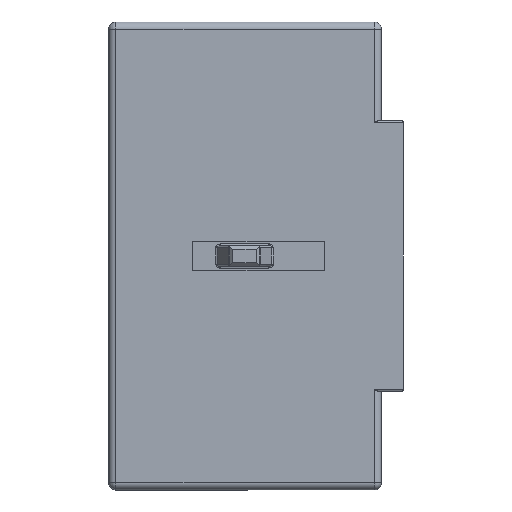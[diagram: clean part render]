
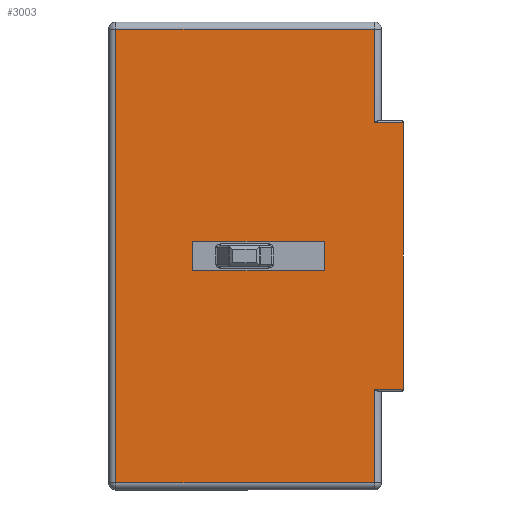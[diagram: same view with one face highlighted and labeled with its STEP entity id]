
A CAD part, left-side view. The second image highlights one B-rep face of the part: STEP entity #3003.
In plain terms, the highlighted planar face has unit normal (-1, 0, 0).
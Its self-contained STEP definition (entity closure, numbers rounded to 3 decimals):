
#56 = VECTOR ( 'NONE', #1629, 1000. ) ;
#64 = VERTEX_POINT ( 'NONE', #909 ) ;
#147 = VECTOR ( 'NONE', #772, 1000. ) ;
#210 = ORIENTED_EDGE ( 'NONE', *, *, #3262, .F. ) ;
#212 = VERTEX_POINT ( 'NONE', #787 ) ;
#217 = VERTEX_POINT ( 'NONE', #3150 ) ;
#229 = DIRECTION ( 'NONE',  ( 0., 0., -1. ) ) ;
#237 = ORIENTED_EDGE ( 'NONE', *, *, #567, .T. ) ;
#342 = DIRECTION ( 'NONE',  ( 0., 0., 1. ) ) ;
#397 = ORIENTED_EDGE ( 'NONE', *, *, #1645, .F. ) ;
#418 = CARTESIAN_POINT ( 'NONE',  ( -7.25, 10.8, 2. ) ) ;
#472 = CARTESIAN_POINT ( 'NONE',  ( -7.25, 10.8, -2. ) ) ;
#566 = CARTESIAN_POINT ( 'NONE',  ( -7.25, 39.3, -32. ) ) ;
#567 = EDGE_CURVE ( 'NONE', #3945, #2266, #2293, .T. ) ;
#617 = CARTESIAN_POINT ( 'NONE',  ( -7.25, 39.3, -31. ) ) ;
#633 = LINE ( 'NONE', #1665, #4126 ) ;
#645 = CARTESIAN_POINT ( 'NONE',  ( -7.25, 28.8, -2. ) ) ;
#665 = CARTESIAN_POINT ( 'NONE',  ( -7.25, 0., -18.25 ) ) ;
#702 = DIRECTION ( 'NONE',  ( 0., 0., 1. ) ) ;
#762 = CARTESIAN_POINT ( 'NONE',  ( -7.25, 10.8, 2. ) ) ;
#772 = DIRECTION ( 'NONE',  ( 0., -1., 0. ) ) ;
#774 = ORIENTED_EDGE ( 'NONE', *, *, #2229, .T. ) ;
#787 = CARTESIAN_POINT ( 'NONE',  ( -7.25, 4., 31. ) ) ;
#869 = CARTESIAN_POINT ( 'NONE',  ( -7.25, 0., 0. ) ) ;
#873 = EDGE_CURVE ( 'NONE', #2851, #3379, #1066, .T. ) ;
#908 = CARTESIAN_POINT ( 'NONE',  ( -7.25, 0., 18.5 ) ) ;
#909 = CARTESIAN_POINT ( 'NONE',  ( -7.25, 39.3, 31. ) ) ;
#922 = CARTESIAN_POINT ( 'NONE',  ( -7.25, 4., 18.25 ) ) ;
#985 = VECTOR ( 'NONE', #3997, 1000. ) ;
#1029 = DIRECTION ( 'NONE',  ( 0., -1., 0. ) ) ;
#1066 = LINE ( 'NONE', #1454, #147 ) ;
#1072 = CARTESIAN_POINT ( 'NONE',  ( -7.25, 10.8, -2. ) ) ;
#1083 = CARTESIAN_POINT ( 'NONE',  ( -7.25, 4., -18.25 ) ) ;
#1085 = LINE ( 'NONE', #1072, #3657 ) ;
#1124 = VECTOR ( 'NONE', #1029, 1000. ) ;
#1168 = ORIENTED_EDGE ( 'NONE', *, *, #2790, .T. ) ;
#1223 = VERTEX_POINT ( 'NONE', #3943 ) ;
#1259 = DIRECTION ( 'NONE',  ( 0., 0., -1. ) ) ;
#1279 = VECTOR ( 'NONE', #2600, 1000. ) ;
#1357 = DIRECTION ( 'NONE',  ( 0., -1., 0. ) ) ;
#1454 = CARTESIAN_POINT ( 'NONE',  ( -7.25, 10.8, -2. ) ) ;
#1496 = VECTOR ( 'NONE', #342, 1000. ) ;
#1553 = PLANE ( 'NONE',  #3830 ) ;
#1629 = DIRECTION ( 'NONE',  ( 0., 0., 1. ) ) ;
#1645 = EDGE_CURVE ( 'NONE', #3379, #3383, #1085, .T. ) ;
#1665 = CARTESIAN_POINT ( 'NONE',  ( -7.25, 3., 18.25 ) ) ;
#1754 = LINE ( 'NONE', #908, #3546 ) ;
#1817 = ORIENTED_EDGE ( 'NONE', *, *, #2402, .T. ) ;
#1880 = LINE ( 'NONE', #4300, #985 ) ;
#1891 = ORIENTED_EDGE ( 'NONE', *, *, #873, .F. ) ;
#1924 = CARTESIAN_POINT ( 'NONE',  ( -7.25, 28.8, -2. ) ) ;
#2018 = LINE ( 'NONE', #4123, #1124 ) ;
#2032 = CARTESIAN_POINT ( 'NONE',  ( -7.25, 4., -18.25 ) ) ;
#2096 = EDGE_CURVE ( 'NONE', #1223, #2851, #4076, .T. ) ;
#2153 = EDGE_CURVE ( 'NONE', #4085, #212, #3655, .T. ) ;
#2226 = DIRECTION ( 'NONE',  ( -1., 0., 0. ) ) ;
#2229 = EDGE_CURVE ( 'NONE', #217, #4085, #633, .T. ) ;
#2266 = VERTEX_POINT ( 'NONE', #1083 ) ;
#2293 = LINE ( 'NONE', #2032, #1496 ) ;
#2310 = LINE ( 'NONE', #566, #3996 ) ;
#2342 = ORIENTED_EDGE ( 'NONE', *, *, #2418, .F. ) ;
#2355 = CARTESIAN_POINT ( 'NONE',  ( -7.25, 0., -18.25 ) ) ;
#2402 = EDGE_CURVE ( 'NONE', #3608, #3945, #2018, .T. ) ;
#2418 = EDGE_CURVE ( 'NONE', #3383, #1223, #3033, .T. ) ;
#2471 = EDGE_LOOP ( 'NONE', ( #774, #3190, #1168, #3849, #1817, #237, #4292, #210 ) ) ;
#2558 = DIRECTION ( 'NONE',  ( 0., 0., 1. ) ) ;
#2600 = DIRECTION ( 'NONE',  ( 0., 0., -1. ) ) ;
#2674 = DIRECTION ( 'NONE',  ( 0., 1., 0. ) ) ;
#2696 = LINE ( 'NONE', #665, #4255 ) ;
#2703 = EDGE_CURVE ( 'NONE', #64, #3608, #2310, .T. ) ;
#2786 = DIRECTION ( 'NONE',  ( 0., 1., 0. ) ) ;
#2790 = EDGE_CURVE ( 'NONE', #212, #64, #1880, .T. ) ;
#2851 = VERTEX_POINT ( 'NONE', #645 ) ;
#2982 = CARTESIAN_POINT ( 'NONE',  ( -7.25, 4., 32. ) ) ;
#3003 = ADVANCED_FACE ( 'NONE', ( #3838, #3626 ), #1553, .T. ) ;
#3033 = LINE ( 'NONE', #418, #3482 ) ;
#3150 = CARTESIAN_POINT ( 'NONE',  ( -7.25, 0., 18.25 ) ) ;
#3190 = ORIENTED_EDGE ( 'NONE', *, *, #2153, .T. ) ;
#3262 = EDGE_CURVE ( 'NONE', #217, #3972, #1754, .T. ) ;
#3339 = EDGE_LOOP ( 'NONE', ( #2342, #397, #1891, #4143 ) ) ;
#3379 = VERTEX_POINT ( 'NONE', #472 ) ;
#3383 = VERTEX_POINT ( 'NONE', #762 ) ;
#3416 = CARTESIAN_POINT ( 'NONE',  ( -7.25, 4., -31. ) ) ;
#3482 = VECTOR ( 'NONE', #2786, 1000. ) ;
#3546 = VECTOR ( 'NONE', #229, 1000. ) ;
#3550 = EDGE_CURVE ( 'NONE', #2266, #3972, #2696, .T. ) ;
#3608 = VERTEX_POINT ( 'NONE', #617 ) ;
#3626 = FACE_OUTER_BOUND ( 'NONE', #2471, .T. ) ;
#3655 = LINE ( 'NONE', #2982, #56 ) ;
#3657 = VECTOR ( 'NONE', #702, 1000. ) ;
#3830 = AXIS2_PLACEMENT_3D ( 'NONE', #869, #2226, #2558 ) ;
#3838 = FACE_BOUND ( 'NONE', #3339, .T. ) ;
#3849 = ORIENTED_EDGE ( 'NONE', *, *, #2703, .T. ) ;
#3943 = CARTESIAN_POINT ( 'NONE',  ( -7.25, 28.8, 2. ) ) ;
#3945 = VERTEX_POINT ( 'NONE', #3416 ) ;
#3972 = VERTEX_POINT ( 'NONE', #2355 ) ;
#3996 = VECTOR ( 'NONE', #1259, 1000. ) ;
#3997 = DIRECTION ( 'NONE',  ( 0., 1., 0. ) ) ;
#4076 = LINE ( 'NONE', #1924, #1279 ) ;
#4085 = VERTEX_POINT ( 'NONE', #922 ) ;
#4123 = CARTESIAN_POINT ( 'NONE',  ( -7.25, 3., -31. ) ) ;
#4126 = VECTOR ( 'NONE', #2674, 1000. ) ;
#4143 = ORIENTED_EDGE ( 'NONE', *, *, #2096, .F. ) ;
#4255 = VECTOR ( 'NONE', #1357, 1000. ) ;
#4292 = ORIENTED_EDGE ( 'NONE', *, *, #3550, .T. ) ;
#4300 = CARTESIAN_POINT ( 'NONE',  ( -7.25, 40.3, 31. ) ) ;
